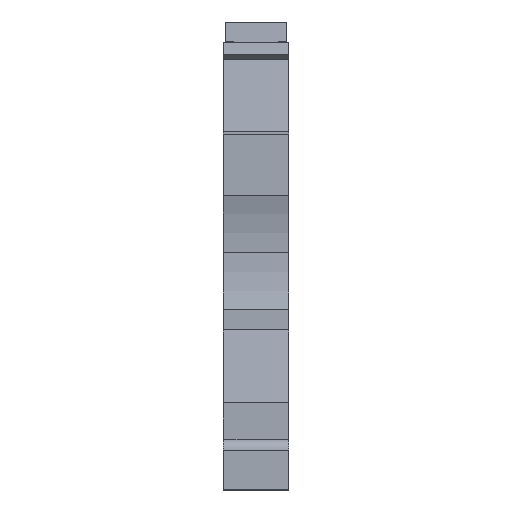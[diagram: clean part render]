
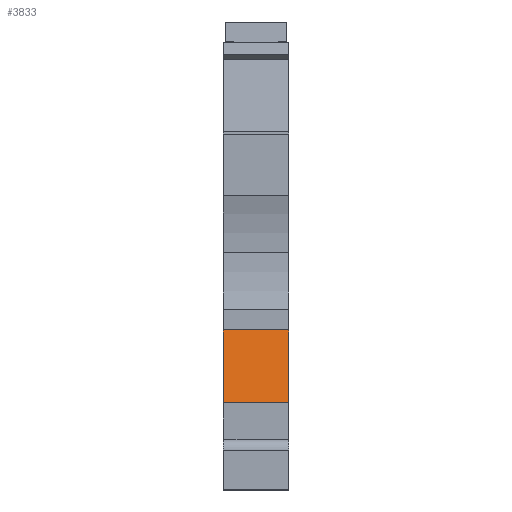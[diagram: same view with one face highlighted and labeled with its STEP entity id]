
A CAD part, front view. The second image highlights one B-rep face of the part: STEP entity #3833.
In plain terms, the highlighted planar face has unit normal (0, -0.985, 0.174).
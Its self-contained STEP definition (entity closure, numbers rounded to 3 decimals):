
#2518=CARTESIAN_POINT('',(5.15,3.6,6.862));
#2519=VERTEX_POINT('',#2518);
#2526=CARTESIAN_POINT('',(0.,3.6,6.862));
#2527=VERTEX_POINT('',#2526);
#2528=CARTESIAN_POINT('',(0.,3.6,6.862));
#2529=DIRECTION('',(1.,0.,0.));
#2530=VECTOR('',#2529,5.15);
#2531=LINE('',#2528,#2530);
#2532=EDGE_CURVE('',#2527,#2519,#2531,.T.);
#3803=CARTESIAN_POINT('',(0.15,4.405,11.426));
#3804=DIRECTION('',(0.,-0.985,0.174));
#3805=DIRECTION('',(0.,-0.174,-0.985));
#3806=AXIS2_PLACEMENT_3D('',#3803,#3804,#3805);
#3807=PLANE('',#3806);
#3808=ORIENTED_EDGE('',*,*,#2532,.T.);
#3809=CARTESIAN_POINT('',(5.15,4.612,12.6));
#3810=VERTEX_POINT('',#3809);
#3811=CARTESIAN_POINT('',(5.15,3.6,6.862));
#3812=DIRECTION('',(-0.,0.174,0.985));
#3813=VECTOR('',#3812,5.827);
#3814=LINE('',#3811,#3813);
#3815=EDGE_CURVE('',#2519,#3810,#3814,.T.);
#3816=ORIENTED_EDGE('',*,*,#3815,.T.);
#3817=CARTESIAN_POINT('',(0.,4.612,12.6));
#3818=VERTEX_POINT('',#3817);
#3819=CARTESIAN_POINT('',(0.,4.612,12.6));
#3820=DIRECTION('',(1.,0.,0.));
#3821=VECTOR('',#3820,5.15);
#3822=LINE('',#3819,#3821);
#3823=EDGE_CURVE('',#3818,#3810,#3822,.T.);
#3824=ORIENTED_EDGE('',*,*,#3823,.F.);
#3825=CARTESIAN_POINT('',(0.,3.6,6.862));
#3826=DIRECTION('',(-0.,0.174,0.985));
#3827=VECTOR('',#3826,5.827);
#3828=LINE('',#3825,#3827);
#3829=EDGE_CURVE('',#2527,#3818,#3828,.T.);
#3830=ORIENTED_EDGE('',*,*,#3829,.F.);
#3831=EDGE_LOOP('',(#3808,#3816,#3824,#3830));
#3832=FACE_BOUND('',#3831,.T.);
#3833=ADVANCED_FACE('',(#3832),#3807,.T.);
